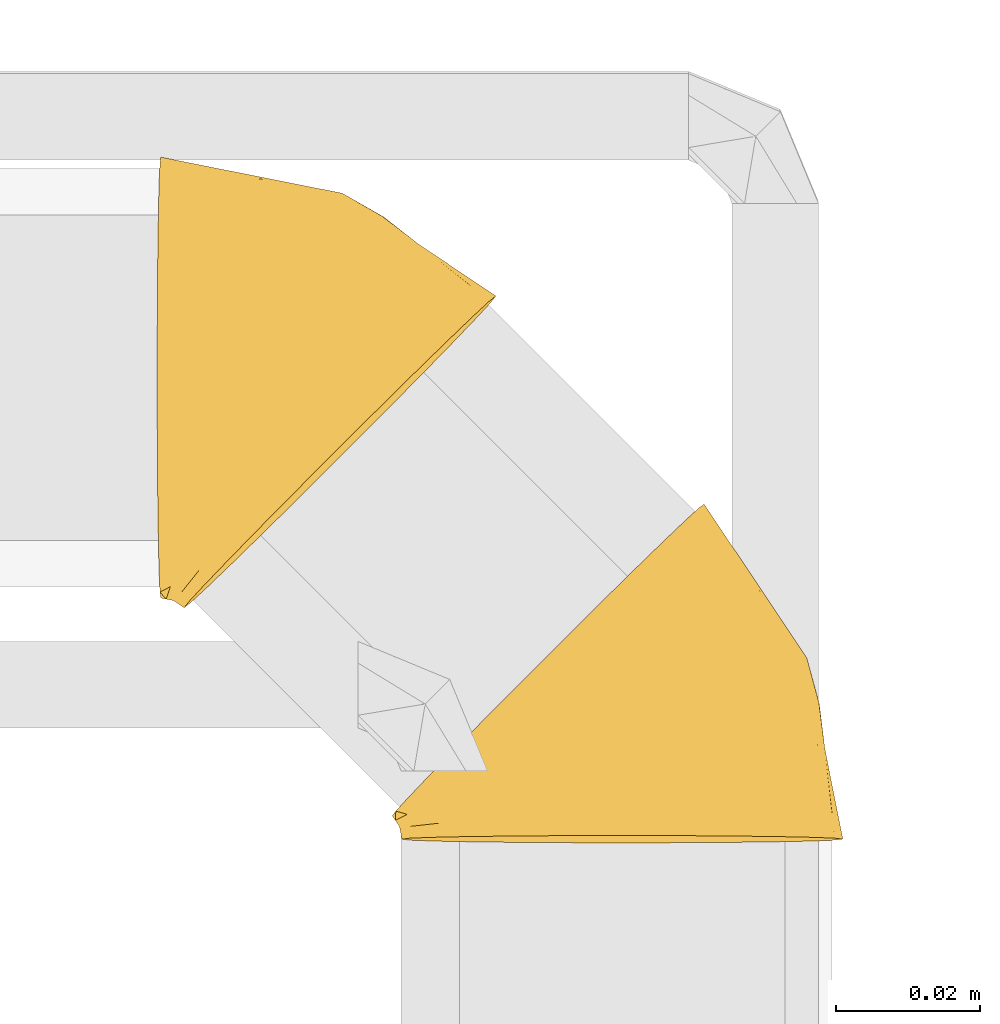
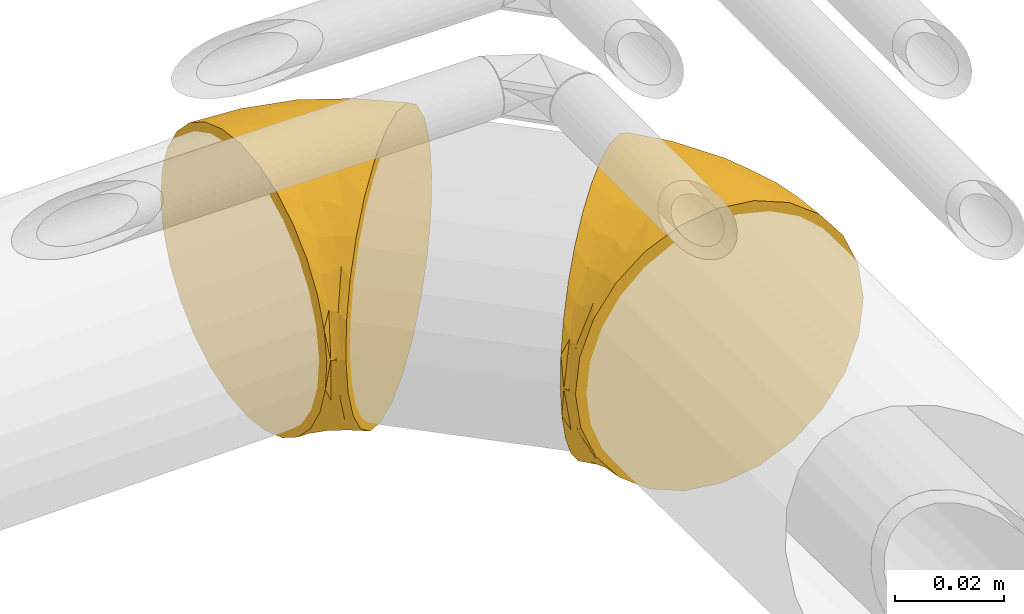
# One storey, part 18 of 108: 2 coverings.
"""IFC2X3 building model written with IfcOpenShell, lengths in millimetres."""

from ifc_helpers import new_model, entity, si_unit, converted_unit, derived_unit, direction, frame, origin_with_axes, place, context, subcontext, project, spatial, open_shell, surface_model, source, transform, mapped, element, save


model = new_model("IFC2X3")

# Units and contexts
model_context = context("Model", 3, precision=0.01, world=frame((0.0, 4.29681676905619e-09, 0.0)), true_north=direction((4.01073788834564e-13, 1.0)))
plan_context = context("Plan", 3, precision=0.01, world=frame((0.0, 4.29681676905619e-09, 0.0)), true_north=direction((4.01073788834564e-13, 1.0)))
body_context = subcontext(model_context, "Body", "Model", "MODEL_VIEW")
ifc_project = project(units=[converted_unit("PLANEANGLEUNIT", "DEGREE", entity("IfcPositiveLengthMeasure", 0.0174532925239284), si_unit("PLANEANGLEUNIT", "RADIAN"), dimensions=[0, 0, 0, 0, 0, 0, 0]), si_unit("AREAUNIT", "SQUARE_METRE"), si_unit("LENGTHUNIT", "METRE", prefix="MILLI"), si_unit("MASSUNIT", "GRAM", prefix="KILO"), si_unit("POWERUNIT", "WATT"), si_unit("PRESSUREUNIT", "PASCAL", prefix="KILO"), si_unit("FORCEUNIT", "NEWTON", prefix="KILO"), si_unit("ELECTRICVOLTAGEUNIT", "VOLT"), si_unit("ELECTRICCURRENTUNIT", "AMPERE"), si_unit("THERMODYNAMICTEMPERATUREUNIT", "DEGREE_CELSIUS"), si_unit("TIMEUNIT", "SECOND"), si_unit("VOLUMEUNIT", "CUBIC_METRE"), derived_unit("LINEARVELOCITYUNIT", [(si_unit("LENGTHUNIT", "METRE"), 1), (si_unit("TIMEUNIT", "SECOND"), -1)]), derived_unit("VOLUMETRICFLOWRATEUNIT", [(si_unit("VOLUMEUNIT", "CUBIC_METRE"), 1), (si_unit("TIMEUNIT", "SECOND"), -1)]), derived_unit("THERMALTRANSMITTANCEUNIT", [(si_unit("POWERUNIT", "WATT"), 1), (si_unit("THERMODYNAMICTEMPERATUREUNIT", "KELVIN"), -1), (si_unit("AREAUNIT", "SQUARE_METRE"), -1)]), derived_unit("SOUNDPRESSUREUNIT", [(si_unit("PRESSUREUNIT", "PASCAL"), 1)])], contexts=[model_context, plan_context])

# Site, building, storey
site_placement = place(None, frame((0.0, -4.29681676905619e-09, 0.0), z_axis=(0.0, 0.0, 1.0), x_axis=(1.0, 0.0, 0.0)))
site = spatial("IfcSite", under=ifc_project, at=site_placement, CompositionType="ELEMENT")
building_placement = place(site_placement, frame((0.0, 4.29681676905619e-09, 0.0), z_axis=(0.0, 0.0, 1.0), x_axis=(1.0, 0.0, 0.0)))
building = spatial("IfcBuilding", under=site, at=building_placement, Name="mc-building", CompositionType="ELEMENT")
storey_placement = place(building_placement, frame((0.0, 0.0, 210200.0), z_axis=(0.0, 0.0, 1.0), x_axis=(1.0, 0.0, 0.0)))
storey = spatial("IfcBuildingStorey", under=building, at=storey_placement, Name="Nivå F - 0,7 m", CompositionType="ELEMENT", Elevation=210200.0)

# Coverings
shared_shape_1 = source(origin_with_axes(), body_context, "Body", "SurfaceModel", [
    surface_model("IfcShellBasedSurfaceModel", [(-10.78269, 31.40384, 6.81254), (15.12086, 5.49447, -29.83368), (-11.32568, 31.94694, 0.0), (-3.17671, 23.79615, 23.9276), (-9.18149, 29.80228, 13.28167), (0.9254, 19.69312, 27.57178), (5.49786, 15.11963, 29.83368), (-6.60296, 27.22317, 19.08346), (-9.18464, 29.80543, -13.27241), (0.91886, 19.69966, -27.56732), (-6.6081, 27.22831, -19.07433), (-10.78387, 31.40501, -6.80525), (-3.18316, 23.8026, -23.92032), (10.30936, 10.30705, -30.6), (5.49271, 15.12478, -29.83202), (10.30936, 10.30705, 30.6), (15.12602, 5.48931, 29.83202), (19.69986, 0.91444, 27.56732), (31.9444, -11.33285, 0.0), (23.80189, -3.18851, 23.92032), (27.22683, -6.61422, 19.07433), (29.80337, -9.19133, 13.27241), (31.40259, -10.79092, 6.80525), (19.69332, 0.92098, -27.57178), (27.22169, -6.60907, -19.08346), (23.79544, -3.18206, -23.9276), (31.40141, -10.78974, -6.81254), (29.80022, -9.18818, -13.28167), (-14.578, 29.55733, -7.91986), (-14.578, 29.55733, 7.91986), (-14.578, 30.6, 0.0), (-14.578, 21.63747, -21.63747), (-14.578, 26.50038, -15.3), (-14.578, 15.3, -26.50038), (-14.578, 26.50038, 15.3), (-14.578, 7.91986, -29.55733), (-14.578, 7.91986, 29.55733), (-14.578, 21.63747, 21.63747), (-14.578, 15.3, 26.50038), (-14.578, -7.91986, 29.55733), (-14.578, 0.0, 30.6), (-14.578, 0.0, -30.6), (-14.578, -7.91986, -29.55733), (-14.578, -15.3, -26.50038), (-14.578, -21.63747, -21.63747), (-14.578, -26.50038, -15.3), (-14.578, -29.55733, -7.91986), (-14.578, -30.6, 0.0), (-14.578, -15.3, 26.50038), (-14.578, -29.55733, 7.91986), (-14.578, -21.63747, 21.63747), (-14.578, -26.50038, 15.3), (-3.31534, -19.08942, 22.94526), (-2.96003, -23.5664, 18.05772), (4.28197, -27.30722, 5.56066), (9.39307, -21.73774, 15.1648), (-1.71566, -27.15973, 11.2108), (15.87955, -13.55254, 20.97044), (-1.86271, -4.62939, 29.87759), (6.50956, 1.42253, 30.24928), (-1.10937, 2.67868, 30.6), (-3.41479, -11.50183, 27.78619), (15.29155, -7.55676, 25.47208), (6.09262, -13.5664, 24.91417), (8.01493, -5.52707, 28.40762), (-1.98942, -28.09634, 0.0), (10.59916, -25.59269, 0.0), (19.72053, -19.1371, 9.59555), (20.34342, -15.40483, 15.66782), (21.27178, -18.46277, 0.0), (6.13004, -19.1585, 20.21807), (-7.77014, 10.5127, 29.05802), (-1.59784, 13.71959, 28.8843), (5.46909, 7.07347, 30.6), (-7.84369, 1.33934, 30.6), (-7.21247, 17.76789, 25.91258), (-11.12866, 17.67097, 25.21635), (-12.94463, 29.27562, 9.60164), (-12.8179, 30.95005, 0.0), (-13.69795, 30.77503, 0.0), (-10.6133, 22.22578, 21.64141), (-12.65, 25.39825, 17.34341), (-7.56155, 23.58864, 21.64159), (-3.75467, 19.67631, 25.91258), (-11.95821, 31.52437, 0.0), (-11.31027, 29.79195, 10.11071), (-10.96109, 26.63948, 16.28498), (-9.26294, 27.5767, 16.28498), (-12.94521, 29.27903, -9.59122), (-11.31161, 29.79456, -10.10234), (-10.96324, 26.64491, -16.27569), (-12.6504, 25.40421, -17.33481), (-7.77429, 10.52237, -29.05458), (-1.10937, 2.67868, -30.6), (-7.84369, 1.33934, -30.6), (-10.61561, 22.23332, -21.63352), (-11.13165, 17.67915, -25.21043), (-7.56582, 23.5957, -21.63334), (-9.26627, 27.58149, -16.27569), (5.46909, 7.07347, -30.6), (-1.60286, 13.72635, -28.88137), (-7.21632, 17.77635, -25.90675), (-3.75999, 19.68392, -25.90675), (8.01144, -5.51955, -28.41093), (4.28204, -27.30739, -5.55969), (-1.861, -4.62437, -29.87854), (-2.96543, -23.56727, -18.05799), (-1.70958, -27.15857, -11.21056), (-3.42305, -11.49366, -27.79074), (6.09004, -13.55794, -24.92045), (-3.31238, -19.08693, -22.94688), (9.39045, -21.73325, -15.17383), (6.50765, 1.4249, -30.24974), (15.28666, -7.54912, -25.47812), (6.13112, -19.1597, -20.21636), (20.34021, -15.40231, -15.67436), (15.8758, -13.54561, -20.97878), (19.71789, -19.13559, -9.60366)], [open_shell([[[0, 1, 2]], [[3, 0, 4]], [[5, 6, 3]], [[0, 3, 1]], [[4, 7, 3]], [[8, 2, 1]], [[8, 9, 10]], [[8, 11, 2]], [[12, 10, 9]], [[13, 14, 9]], [[8, 13, 9]], [[8, 1, 13]], [[3, 6, 1]], [[15, 16, 17]], [[6, 17, 18]], [[18, 19, 20]], [[18, 20, 21]], [[17, 19, 18]], [[21, 22, 18]], [[23, 24, 25]], [[24, 23, 1]], [[18, 26, 24]], [[27, 24, 26]], [[18, 24, 1]], [[6, 18, 1]], [[6, 15, 17]], [[28, 29, 30]], [[31, 28, 32]], [[29, 28, 33]], [[33, 28, 31]], [[34, 33, 35]], [[34, 36, 37]], [[34, 29, 33]], [[37, 36, 38]], [[34, 35, 36]], [[39, 40, 36]], [[36, 35, 39]], [[41, 42, 43]], [[39, 41, 43]], [[44, 45, 46]], [[43, 44, 39]], [[46, 47, 44]], [[48, 49, 50]], [[47, 48, 39]], [[50, 49, 51]], [[49, 48, 47]], [[39, 44, 47]], [[41, 39, 35]], [[52, 48, 50]], [[50, 51, 53]], [[54, 55, 56]], [[50, 53, 52]], [[53, 56, 55]], [[19, 57, 20]], [[58, 59, 60]], [[58, 39, 61]], [[62, 57, 19]], [[40, 39, 58]], [[63, 64, 61]], [[61, 48, 52]], [[49, 47, 65]], [[54, 66, 67]], [[57, 68, 20]], [[21, 68, 67]], [[58, 61, 64]], [[69, 22, 67]], [[51, 49, 56]], [[49, 54, 56]], [[68, 55, 67]], [[59, 15, 60]], [[17, 16, 64]], [[62, 64, 63]], [[22, 69, 18]], [[54, 67, 55]], [[17, 62, 19]], [[65, 54, 49]], [[66, 54, 65]], [[21, 67, 22]], [[39, 48, 61]], [[63, 52, 70]], [[59, 64, 16]], [[58, 60, 40]], [[56, 53, 51]], [[55, 57, 70]], [[70, 52, 53]], [[52, 63, 61]], [[55, 70, 53]], [[63, 70, 57]], [[64, 62, 17]], [[57, 62, 63]], [[64, 59, 58]], [[15, 59, 16]], [[20, 68, 21]], [[57, 55, 68]], [[67, 66, 69]], [[71, 60, 72]], [[72, 73, 6]], [[36, 74, 71]], [[71, 75, 76]], [[77, 78, 79]], [[75, 80, 76]], [[77, 34, 81]], [[82, 83, 3]], [[82, 80, 75]], [[0, 2, 84]], [[78, 77, 85]], [[79, 29, 77]], [[5, 72, 6]], [[34, 77, 29]], [[5, 83, 72]], [[3, 7, 82]], [[3, 83, 5]], [[4, 0, 85]], [[85, 0, 84]], [[82, 75, 83]], [[77, 86, 85]], [[87, 7, 4]], [[78, 85, 84]], [[80, 82, 86]], [[87, 82, 7]], [[87, 85, 86]], [[71, 72, 75]], [[38, 36, 71]], [[6, 73, 15]], [[72, 60, 73]], [[29, 79, 30]], [[37, 80, 81]], [[72, 83, 75]], [[85, 87, 4]], [[82, 87, 86]], [[81, 80, 86]], [[76, 37, 38]], [[77, 81, 86]], [[37, 81, 34]], [[37, 76, 80]], [[71, 76, 38]], [[74, 36, 40]], [[74, 60, 71]], [[88, 78, 89]], [[89, 84, 11]], [[28, 79, 88]], [[88, 90, 91]], [[92, 93, 94]], [[90, 95, 91]], [[92, 33, 96]], [[97, 98, 10]], [[97, 95, 90]], [[14, 13, 99]], [[93, 92, 100]], [[94, 35, 92]], [[8, 89, 11]], [[33, 92, 35]], [[89, 8, 98]], [[100, 14, 99]], [[8, 10, 98]], [[88, 89, 90]], [[11, 84, 2]], [[97, 90, 98]], [[92, 101, 100]], [[102, 12, 9]], [[93, 100, 99]], [[31, 95, 96]], [[9, 14, 100]], [[102, 100, 101]], [[102, 97, 12]], [[10, 12, 97]], [[95, 97, 101]], [[89, 78, 84]], [[35, 94, 41]], [[32, 28, 88]], [[89, 98, 90]], [[100, 102, 9]], [[97, 102, 101]], [[96, 95, 101]], [[91, 31, 32]], [[92, 96, 101]], [[31, 96, 33]], [[31, 91, 95]], [[88, 91, 32]], [[79, 28, 30]], [[79, 78, 88]], [[1, 23, 103]], [[46, 104, 65]], [[93, 105, 41]], [[44, 106, 45]], [[46, 107, 104]], [[108, 103, 109]], [[106, 107, 45]], [[42, 41, 105]], [[108, 110, 43]], [[104, 107, 111]], [[43, 42, 108]], [[104, 66, 65]], [[112, 103, 105]], [[47, 46, 65]], [[103, 23, 113]], [[114, 111, 106]], [[113, 23, 25]], [[103, 108, 105]], [[115, 24, 27]], [[109, 113, 116]], [[46, 45, 107]], [[27, 117, 115]], [[104, 117, 66]], [[106, 110, 114]], [[115, 117, 111]], [[26, 69, 117]], [[27, 26, 117]], [[109, 110, 108]], [[112, 13, 1]], [[104, 111, 117]], [[116, 25, 24]], [[42, 105, 108]], [[112, 105, 93]], [[110, 106, 44]], [[107, 106, 111]], [[43, 110, 44]], [[114, 109, 116]], [[109, 114, 110]], [[111, 114, 116]], [[116, 113, 25]], [[103, 113, 109]], [[13, 112, 93]], [[103, 112, 1]], [[111, 116, 115]], [[24, 115, 116]], [[69, 26, 18]], [[69, 66, 117]]])]),
])
covering_1_placement = place(storey_placement, frame((331071.68315, 462127.61957, 226.227660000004), z_axis=(-0.0166640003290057, 0.00634400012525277, 0.999841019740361), x_axis=(-0.707013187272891, 0.707013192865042, -0.016269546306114)))
element("IfcCovering", 1, at=covering_1_placement, inside=storey, Name="BI17T - Cellegummi 13 mm SPV fett", PredefinedType="INSULATION", context=body_context, shape_type="MappedRepresentation", body=[
    mapped(shared_shape_1, transform((0.0, 0.0, 0.0), scale=1.0)),
])
shared_shape_2 = source(origin_with_axes(), body_context, "Body", "SurfaceModel", [
    surface_model("IfcShellBasedSurfaceModel", [(0.9254, 19.69312, 27.57178), (5.49786, 15.11963, 29.83368), (-3.17671, 23.79615, 23.9276), (-9.18464, 29.80543, -13.27241), (-10.78387, 31.40501, -6.80525), (-11.32568, 31.94694, 0.0), (10.30936, 10.30705, -30.6), (5.49271, 15.12478, -29.83202), (0.91886, 19.69966, -27.56732), (10.30936, 10.30705, 30.6), (15.12602, 5.48931, 29.83202), (19.69986, 0.91444, 27.56732), (19.69332, 0.92098, -27.57178), (27.22169, -6.60907, -19.08346), (23.79544, -3.18206, -23.9276), (-14.578, 29.55733, -7.91986), (-14.578, 29.55733, 7.91986), (-14.578, 30.6, 0.0), (-14.578, 21.63747, -21.63747), (-14.578, 26.50038, -15.3), (-14.578, 15.3, -26.50038), (-14.578, 26.50038, 15.3), (-14.578, 7.91986, -29.55733), (-14.578, 7.91986, 29.55733), (-14.578, 21.63747, 21.63747), (-14.578, 15.3, 26.50038), (-14.578, -7.91986, 29.55733), (-14.578, 0.0, 30.6), (-14.578, 0.0, -30.6), (-14.578, -7.91986, -29.55733), (-14.578, -15.3, -26.50038), (-14.578, -21.63747, -21.63747), (-14.578, -26.50038, -15.3), (-14.578, -29.55733, -7.91986), (-14.578, -30.6, 0.0), (-14.578, -15.3, 26.50038), (-14.578, -29.55733, 7.91986), (-14.578, -21.63747, 21.63747), (-14.578, -26.50038, 15.3), (-3.31534, -19.08942, 22.94526), (-2.96003, -23.5664, 18.05772), (4.28197, -27.30722, 5.56066), (9.39307, -21.73774, 15.1648), (-1.71566, -27.15973, 11.2108), (23.80189, -3.18851, 23.92032), (15.87955, -13.55254, 20.97044), (27.22683, -6.61422, 19.07433), (-1.86271, -4.62939, 29.87759), (6.50956, 1.42253, 30.24928), (-1.10937, 2.67868, 30.6), (-3.41479, -11.50183, 27.78619), (15.29155, -7.55676, 25.47208), (6.09262, -13.5664, 24.91417), (8.01493, -5.52707, 28.40762), (-1.98942, -28.09634, 0.0), (10.59916, -25.59269, 0.0), (19.72053, -19.1371, 9.59555), (20.34342, -15.40483, 15.66782), (29.80337, -9.19133, 13.27241), (21.27178, -18.46277, 0.0), (31.40259, -10.79092, 6.80525), (31.9444, -11.33285, 0.0), (6.13004, -19.1585, 20.21807), (-7.77014, 10.5127, 29.05802), (-1.59784, 13.71959, 28.8843), (5.46909, 7.07347, 30.6), (-7.84369, 1.33934, 30.6), (-7.21247, 17.76789, 25.91258), (-11.12866, 17.67097, 25.21635), (-12.94463, 29.27562, 9.60164), (-12.8179, 30.95005, 0.0), (-13.69795, 30.77503, 0.0), (-10.6133, 22.22578, 21.64141), (-12.65, 25.39825, 17.34341), (-7.56155, 23.58864, 21.64159), (-3.75467, 19.67631, 25.91258), (-10.78269, 31.40384, 6.81254), (-11.95821, 31.52437, 0.0), (-11.31027, 29.79195, 10.11071), (-6.60296, 27.22317, 19.08346), (-9.18149, 29.80228, 13.28167), (-10.96109, 26.63948, 16.28498), (-9.26294, 27.5767, 16.28498), (-12.94521, 29.27903, -9.59122), (-11.31161, 29.79456, -10.10234), (-10.96324, 26.64491, -16.27569), (-12.6504, 25.40421, -17.33481), (-7.77429, 10.52237, -29.05458), (-1.10937, 2.67868, -30.6), (-7.84369, 1.33934, -30.6), (-10.61561, 22.23332, -21.63352), (-11.13165, 17.67915, -25.21043), (-7.56582, 23.5957, -21.63334), (-9.26627, 27.58149, -16.27569), (-6.6081, 27.22831, -19.07433), (5.46909, 7.07347, -30.6), (-1.60286, 13.72635, -28.88137), (-7.21632, 17.77635, -25.90675), (-3.75999, 19.68392, -25.90675), (-3.18316, 23.8026, -23.92032), (15.12086, 5.49447, -29.83368), (8.01144, -5.51955, -28.41093), (4.28204, -27.30739, -5.55969), (-1.861, -4.62437, -29.87854), (-2.96543, -23.56727, -18.05799), (-1.70958, -27.15857, -11.21056), (-3.42305, -11.49366, -27.79074), (6.09004, -13.55794, -24.92045), (-3.31238, -19.08693, -22.94688), (9.39045, -21.73325, -15.17383), (6.50765, 1.4249, -30.24974), (15.28666, -7.54912, -25.47812), (6.13112, -19.1597, -20.21636), (20.34021, -15.40231, -15.67436), (29.80022, -9.18818, -13.28167), (15.8758, -13.54561, -20.97878), (19.71789, -19.13559, -9.60366), (31.40141, -10.78974, -6.81254)], [open_shell([[[0, 1, 2]], [[3, 4, 5]], [[6, 7, 8]], [[9, 10, 11]], [[12, 13, 14]], [[1, 9, 11]], [[15, 16, 17]], [[18, 15, 19]], [[16, 15, 20]], [[20, 15, 18]], [[21, 20, 22]], [[21, 23, 24]], [[21, 16, 20]], [[24, 23, 25]], [[21, 22, 23]], [[26, 27, 23]], [[23, 22, 26]], [[28, 29, 30]], [[26, 28, 30]], [[31, 32, 33]], [[30, 31, 26]], [[33, 34, 31]], [[35, 36, 37]], [[34, 35, 26]], [[37, 36, 38]], [[36, 35, 34]], [[26, 31, 34]], [[28, 26, 22]], [[39, 35, 37]], [[37, 38, 40]], [[41, 42, 43]], [[37, 40, 39]], [[40, 43, 42]], [[44, 45, 46]], [[47, 48, 49]], [[47, 26, 50]], [[51, 45, 44]], [[27, 26, 47]], [[52, 53, 50]], [[50, 35, 39]], [[36, 34, 54]], [[41, 55, 56]], [[45, 57, 46]], [[58, 57, 56]], [[47, 50, 53]], [[59, 60, 56]], [[38, 36, 43]], [[36, 41, 43]], [[57, 42, 56]], [[48, 9, 49]], [[11, 10, 53]], [[51, 53, 52]], [[60, 59, 61]], [[41, 56, 42]], [[11, 51, 44]], [[54, 41, 36]], [[55, 41, 54]], [[58, 56, 60]], [[26, 35, 50]], [[52, 39, 62]], [[48, 53, 10]], [[47, 49, 27]], [[43, 40, 38]], [[42, 45, 62]], [[62, 39, 40]], [[39, 52, 50]], [[42, 62, 40]], [[52, 62, 45]], [[53, 51, 11]], [[45, 51, 52]], [[53, 48, 47]], [[9, 48, 10]], [[46, 57, 58]], [[45, 42, 57]], [[56, 55, 59]], [[63, 49, 64]], [[64, 65, 1]], [[23, 66, 63]], [[63, 67, 68]], [[69, 70, 71]], [[67, 72, 68]], [[69, 21, 73]], [[74, 75, 2]], [[74, 72, 67]], [[76, 5, 77]], [[70, 69, 78]], [[71, 16, 69]], [[0, 64, 1]], [[21, 69, 16]], [[0, 75, 64]], [[2, 79, 74]], [[2, 75, 0]], [[80, 76, 78]], [[78, 76, 77]], [[74, 67, 75]], [[69, 81, 78]], [[82, 79, 80]], [[70, 78, 77]], [[72, 74, 81]], [[82, 74, 79]], [[82, 78, 81]], [[63, 64, 67]], [[25, 23, 63]], [[1, 65, 9]], [[64, 49, 65]], [[16, 71, 17]], [[24, 72, 73]], [[64, 75, 67]], [[78, 82, 80]], [[74, 82, 81]], [[73, 72, 81]], [[68, 24, 25]], [[69, 73, 81]], [[24, 73, 21]], [[24, 68, 72]], [[63, 68, 25]], [[66, 23, 27]], [[66, 49, 63]], [[83, 70, 84]], [[84, 77, 4]], [[15, 71, 83]], [[83, 85, 86]], [[87, 88, 89]], [[85, 90, 86]], [[87, 20, 91]], [[92, 93, 94]], [[92, 90, 85]], [[7, 6, 95]], [[88, 87, 96]], [[89, 22, 87]], [[3, 84, 4]], [[20, 87, 22]], [[84, 3, 93]], [[96, 7, 95]], [[3, 94, 93]], [[83, 84, 85]], [[4, 77, 5]], [[92, 85, 93]], [[87, 97, 96]], [[98, 99, 8]], [[88, 96, 95]], [[18, 90, 91]], [[8, 7, 96]], [[98, 96, 97]], [[98, 92, 99]], [[94, 99, 92]], [[90, 92, 97]], [[84, 70, 77]], [[22, 89, 28]], [[19, 15, 83]], [[84, 93, 85]], [[96, 98, 8]], [[92, 98, 97]], [[91, 90, 97]], [[86, 18, 19]], [[87, 91, 97]], [[18, 91, 20]], [[18, 86, 90]], [[83, 86, 19]], [[71, 15, 17]], [[71, 70, 83]], [[100, 12, 101]], [[33, 102, 54]], [[88, 103, 28]], [[31, 104, 32]], [[33, 105, 102]], [[106, 101, 107]], [[104, 105, 32]], [[29, 28, 103]], [[106, 108, 30]], [[102, 105, 109]], [[30, 29, 106]], [[102, 55, 54]], [[110, 101, 103]], [[34, 33, 54]], [[101, 12, 111]], [[112, 109, 104]], [[111, 12, 14]], [[101, 106, 103]], [[113, 13, 114]], [[107, 111, 115]], [[33, 32, 105]], [[114, 116, 113]], [[102, 116, 55]], [[104, 108, 112]], [[113, 116, 109]], [[117, 59, 116]], [[114, 117, 116]], [[107, 108, 106]], [[110, 6, 100]], [[102, 109, 116]], [[115, 14, 13]], [[29, 103, 106]], [[110, 103, 88]], [[108, 104, 31]], [[105, 104, 109]], [[30, 108, 31]], [[112, 107, 115]], [[107, 112, 108]], [[109, 112, 115]], [[115, 111, 14]], [[101, 111, 107]], [[6, 110, 88]], [[101, 110, 100]], [[109, 115, 113]], [[13, 113, 115]], [[59, 117, 61]], [[59, 55, 116]], [[79, 5, 76]], [[79, 76, 80]], [[79, 2, 1]], [[79, 3, 5]], [[100, 3, 79]], [[3, 99, 94]], [[99, 3, 8]], [[8, 100, 6]], [[8, 3, 100]], [[44, 79, 1]], [[44, 1, 11]], [[46, 100, 79]], [[46, 58, 100]], [[79, 44, 46]], [[60, 61, 58]], [[61, 12, 100]], [[61, 117, 114]], [[114, 13, 61]], [[61, 13, 12]], [[100, 58, 61]]])]),
])
covering_2_placement = place(storey_placement, frame((331121.18062, 462078.12209, 227.366669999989), z_axis=(-0.00634400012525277, 0.0166640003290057, 0.999841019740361), x_axis=(2.11432871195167e-09, 0.99986114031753, -0.0166643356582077)))
element("IfcCovering", 2, at=covering_2_placement, inside=storey, Name="BI17T - Cellegummi 13 mm SPV fett", PredefinedType="INSULATION", context=body_context, shape_type="MappedRepresentation", body=[
    mapped(shared_shape_2, transform((0.0, 0.0, 0.0), scale=1.0)),
])

save(model, "model.ifc")
